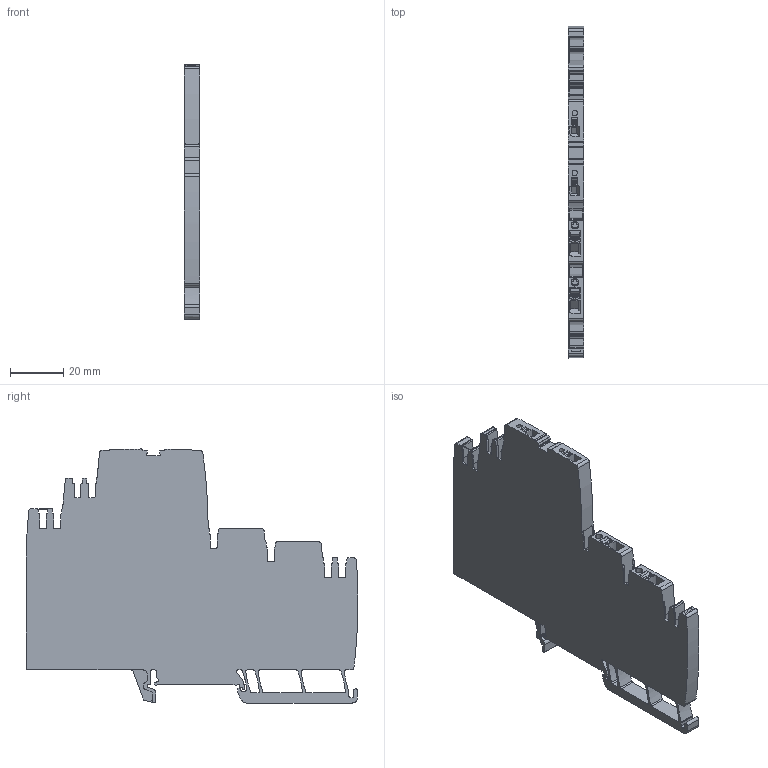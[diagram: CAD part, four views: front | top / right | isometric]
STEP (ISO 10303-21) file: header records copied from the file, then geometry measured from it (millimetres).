
FILE_DESCRIPTION(('CATIA V5R24 STEP','CAx-IF Rec.Pracs.--- Model Styling and Organization---1.2---2011-12-15'),'2;1');
FILE_NAME('\\SRVDE107\Germany\WMC\1_WMC_Input\Step_BU_PA\2495080000.stp','2016-12-15T10:18:47+00:00',('Weidmueller Interface'),('WI'),'CATIA Version 5-6 Release 2014 SP4','CATIA V5 STEP AP214','none');
FILE_SCHEMA(('AUTOMOTIVE_DESIGN { 1 0 10303 214 1 1 1 1 }'));
Length unit declared in the file: millimetre
Products named in the file (1): 2495080000
Bounding box: 6 x 125.08 x 95.73 mm (x, y, z)
Volume: 25595.2 mm3; surface area: 33429.6 mm2
Topology: 6 solids, 6 shells, 900 faces, 2801 edges, 1928 vertices
Faces by surface type: plane 512, cylinder 347, extrusion 41
Entity records: 32395 total; most frequent: CARTESIAN_POINT 7379, ORIENTED_EDGE 5602, DIRECTION 4027, EDGE_CURVE 2801, VERTEX_POINT 1928, VECTOR 1879, LINE 1838, AXIS2_PLACEMENT_3D 1409
